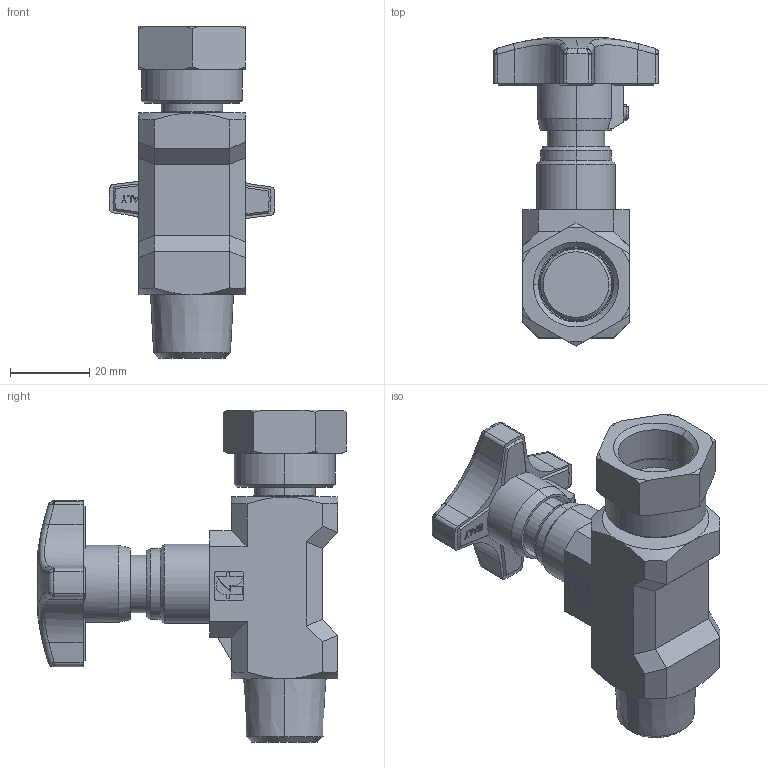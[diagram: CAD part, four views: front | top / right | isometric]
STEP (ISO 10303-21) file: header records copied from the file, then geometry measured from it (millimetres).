
FILE_DESCRIPTION (( 'STEP AP203' ), '1' );
FILE_NAME ('FT290-12.STEP', '2006-12-29T13:56:11', ( ' ' ), ( '' ), 'SwSTEP 2.0', 'SolidWorks 2006104', '' );
FILE_SCHEMA (( 'CONFIG_CONTROL_DESIGN' ));
Length unit declared in the file: millimetre
Products named in the file (6): FT290-12; GranoFT290-12; VolantinoFT290-12; ViteFT290-12; DadoFT290-12; CorpoFT290-12
Assembly tree (5 placements, depth 2):
  FT290-12
    GranoFT290-12
    ViteFT290-12
    CorpoFT290-12
    VolantinoFT290-12
    DadoFT290-12
Bounding box: 41.99 x 78.05 x 84 mm (x, y, z)
Volume: 61544.6 mm3; surface area: 18048.7 mm2
Topology: 5 solids, 5 shells, 424 faces, 1065 edges, 673 vertices
Faces by surface type: plane 247, cylinder 71, cone 61, bspline 30, torus 13, sphere 2
Entity records: 22097 total; most frequent: CARTESIAN_POINT 11503, ORIENTED_EDGE 2114, DIRECTION 1990, EDGE_CURVE 1057, VERTEX_POINT 673, AXIS2_PLACEMENT_3D 669, VECTOR 652, LINE 652
